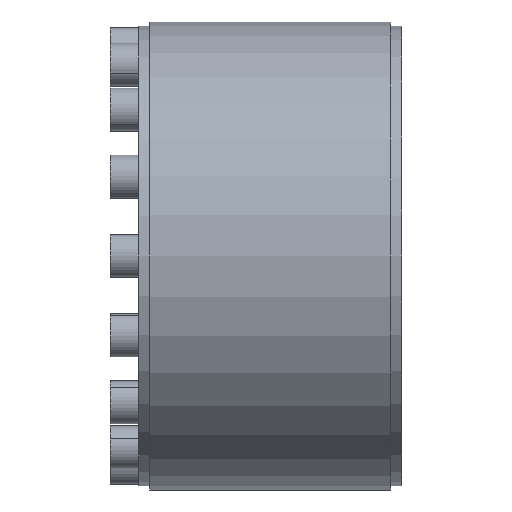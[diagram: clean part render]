
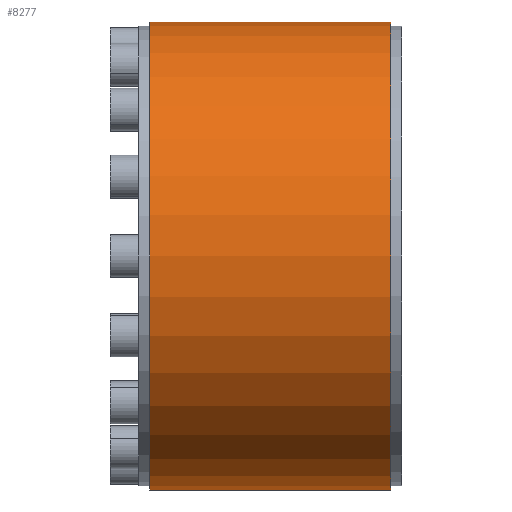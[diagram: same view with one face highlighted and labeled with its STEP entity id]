
A CAD part, front view. The second image highlights one B-rep face of the part: STEP entity #8277.
In plain terms, the highlighted cylindrical face has radius 130 mm (diameter 260 mm), a partial arc.
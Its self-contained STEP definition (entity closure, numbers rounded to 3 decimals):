
#7841 = EDGE_CURVE ( 'NONE', #7845, #7886, #9112, .T. ) ;
#7845 = VERTEX_POINT ( 'NONE', #9136 ) ;
#7846 = VERTEX_POINT ( 'NONE', #9135 ) ;
#7848 = EDGE_CURVE ( 'NONE', #7846, #7883, #9134, .T. ) ;
#7883 = VERTEX_POINT ( 'NONE', #9160 ) ;
#7886 = VERTEX_POINT ( 'NONE', #9154 ) ;
#8273 = EDGE_CURVE ( 'NONE', #7846, #7845, #9728, .T. ) ;
#8277 = ADVANCED_FACE ( 'NONE', ( #9723 ), #9722, .T. ) ;
#8278 = EDGE_LOOP ( 'NONE', ( #8279, #8280, #8281, #8282 ) ) ;
#8279 = ORIENTED_EDGE ( 'NONE', *, *, #7848, .F. ) ;
#8280 = ORIENTED_EDGE ( 'NONE', *, *, #8273, .T. ) ;
#8281 = ORIENTED_EDGE ( 'NONE', *, *, #7841, .T. ) ;
#8282 = ORIENTED_EDGE ( 'NONE', *, *, #8283, .F. ) ;
#8283 = EDGE_CURVE ( 'NONE', #7883, #7886, #9831, .T. ) ;
#9109 = DIRECTION ( 'NONE',  ( -1., 0., 0. ) ) ;
#9110 = VECTOR ( 'NONE', #9109, 1000. ) ;
#9111 = CARTESIAN_POINT ( 'NONE',  ( 0., 0., 130. ) ) ;
#9112 = LINE ( 'NONE', #9111, #9110 ) ;
#9131 = DIRECTION ( 'NONE',  ( -1., 0., 0. ) ) ;
#9132 = VECTOR ( 'NONE', #9131, 1000. ) ;
#9133 = CARTESIAN_POINT ( 'NONE',  ( 0., 0., -130. ) ) ;
#9134 = LINE ( 'NONE', #9133, #9132 ) ;
#9135 = CARTESIAN_POINT ( 'NONE',  ( 140., 0., -130. ) ) ;
#9136 = CARTESIAN_POINT ( 'NONE',  ( 140., 0., 130. ) ) ;
#9154 = CARTESIAN_POINT ( 'NONE',  ( 6., 0., 130. ) ) ;
#9160 = CARTESIAN_POINT ( 'NONE',  ( 6., 0., -130. ) ) ;
#9722 = CYLINDRICAL_SURFACE ( 'NONE', #9830, 130. ) ;
#9723 = FACE_OUTER_BOUND ( 'NONE', #8278, .T. ) ;
#9724 = DIRECTION ( 'NONE',  ( 0., 0., 1. ) ) ;
#9725 = DIRECTION ( 'NONE',  ( -1., 0., 0. ) ) ;
#9726 = CARTESIAN_POINT ( 'NONE',  ( 140., 0., 0. ) ) ;
#9727 = AXIS2_PLACEMENT_3D ( 'NONE', #9726, #9725, #9724 ) ;
#9728 = CIRCLE ( 'NONE', #9727, 130. ) ;
#9824 = DIRECTION ( 'NONE',  ( -1., 0., 0. ) ) ;
#9825 = CARTESIAN_POINT ( 'NONE',  ( 6., 0., 0. ) ) ;
#9826 = AXIS2_PLACEMENT_3D ( 'NONE', #9825, #9824, #9864 ) ;
#9827 = DIRECTION ( 'NONE',  ( 0., 0., 1. ) ) ;
#9828 = DIRECTION ( 'NONE',  ( -1., 0., 0. ) ) ;
#9829 = CARTESIAN_POINT ( 'NONE',  ( 0., 0., 0. ) ) ;
#9830 = AXIS2_PLACEMENT_3D ( 'NONE', #9829, #9828, #9827 ) ;
#9831 = CIRCLE ( 'NONE', #9826, 130. ) ;
#9864 = DIRECTION ( 'NONE',  ( 0., 0., 1. ) ) ;
